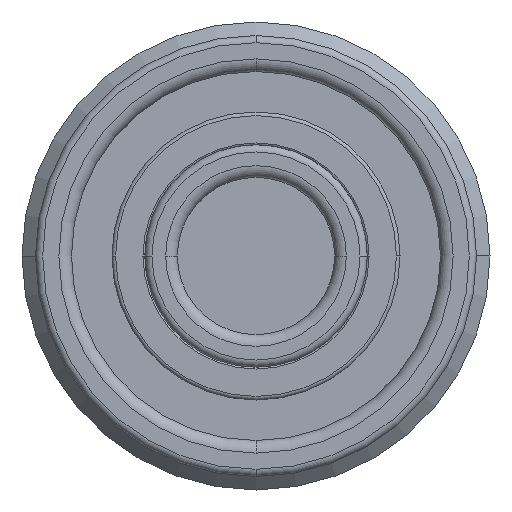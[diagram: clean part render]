
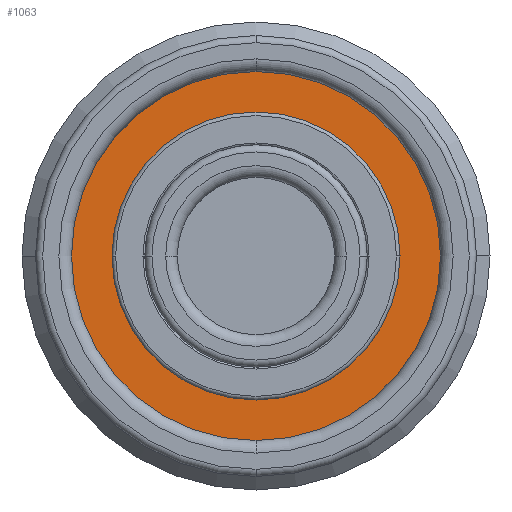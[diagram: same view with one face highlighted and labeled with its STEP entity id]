
A CAD part, front view. The second image highlights one B-rep face of the part: STEP entity #1063.
In plain terms, the highlighted planar face has unit normal (0, -1, 0).
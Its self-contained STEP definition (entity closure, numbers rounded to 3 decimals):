
#689=FACE_BOUND('',#1395,.T.);
#690=FACE_BOUND('',#1396,.T.);
#718=PLANE('',#2988);
#1063=ADVANCED_FACE('',(#689,#690),#718,.F.);
#1395=EDGE_LOOP('',(#1679,#1680));
#1396=EDGE_LOOP('',(#1681,#1682));
#1679=ORIENTED_EDGE('',*,*,#2486,.T.);
#1680=ORIENTED_EDGE('',*,*,#2373,.T.);
#1681=ORIENTED_EDGE('',*,*,#2451,.T.);
#1682=ORIENTED_EDGE('',*,*,#2485,.T.);
#2175=VERTEX_POINT('',#4033);
#2176=VERTEX_POINT('',#4034);
#2241=VERTEX_POINT('',#4217);
#2242=VERTEX_POINT('',#4219);
#2373=EDGE_CURVE('',#2175,#2176,#2697,.T.);
#2451=EDGE_CURVE('',#2242,#2241,#2734,.T.);
#2485=EDGE_CURVE('',#2241,#2242,#2755,.T.);
#2486=EDGE_CURVE('',#2176,#2175,#2756,.T.);
#2697=CIRCLE('',#2895,11.9);
#2734=CIRCLE('',#2949,8.);
#2755=CIRCLE('',#2985,8.);
#2756=CIRCLE('',#2987,11.9);
#2895=AXIS2_PLACEMENT_3D('',#4032,#3256,#3257);
#2949=AXIS2_PLACEMENT_3D('',#4218,#3397,#3398);
#2985=AXIS2_PLACEMENT_3D('',#4466,#3472,#3473);
#2987=AXIS2_PLACEMENT_3D('',#4468,#3476,#3477);
#2988=AXIS2_PLACEMENT_3D('',#4469,#3478,#3479);
#3256=DIRECTION('',(0.,-1.,0.));
#3257=DIRECTION('',(-1.,0.,0.));
#3397=DIRECTION('',(0.,1.,0.));
#3398=DIRECTION('',(-1.,0.,0.));
#3472=DIRECTION('',(0.,1.,0.));
#3473=DIRECTION('',(-1.,0.,0.));
#3476=DIRECTION('',(0.,-1.,0.));
#3477=DIRECTION('',(-1.,0.,0.));
#3478=DIRECTION('',(0.,1.,0.));
#3479=DIRECTION('',(1.,0.,0.));
#4032=CARTESIAN_POINT('',(0.,19.9,0.));
#4033=CARTESIAN_POINT('',(11.9,19.9,0.));
#4034=CARTESIAN_POINT('',(-11.9,19.9,0.));
#4217=CARTESIAN_POINT('',(8.,19.9,0.));
#4218=CARTESIAN_POINT('',(0.,19.9,0.));
#4219=CARTESIAN_POINT('',(-8.,19.9,0.));
#4466=CARTESIAN_POINT('',(0.,19.9,0.));
#4468=CARTESIAN_POINT('',(0.,19.9,0.));
#4469=CARTESIAN_POINT('',(8.,19.9,0.));
